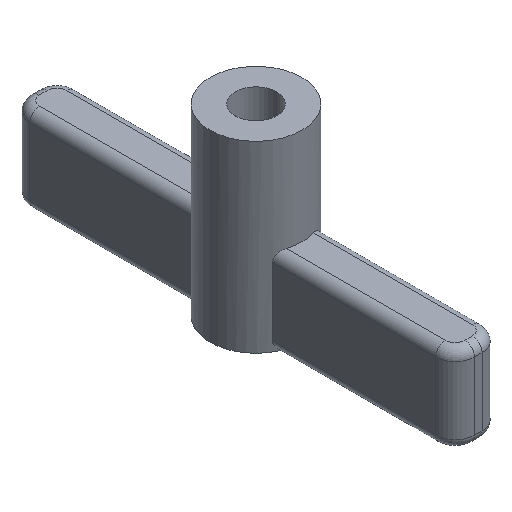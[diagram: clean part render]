
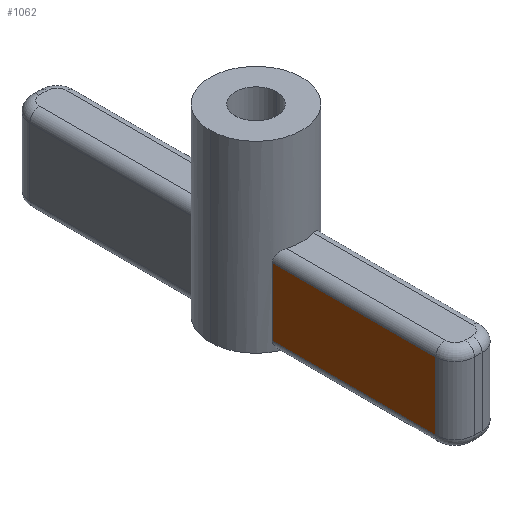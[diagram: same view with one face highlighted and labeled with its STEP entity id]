
A CAD part, isometric view. The second image highlights one B-rep face of the part: STEP entity #1062.
In plain terms, the highlighted planar face has unit normal (-1, 0, 0).
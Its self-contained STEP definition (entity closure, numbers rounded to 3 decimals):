
#9 = ORIENTED_EDGE ( 'NONE', *, *, #1212, .T. ) ;
#70 = VERTEX_POINT ( 'NONE', #946 ) ;
#111 = ORIENTED_EDGE ( 'NONE', *, *, #310, .T. ) ;
#134 = EDGE_CURVE ( 'NONE', #947, #70, #182, .T. ) ;
#141 = LINE ( 'NONE', #458, #188 ) ;
#164 = VECTOR ( 'NONE', #800, 1000. ) ;
#170 = EDGE_CURVE ( 'NONE', #70, #538, #317, .T. ) ;
#176 = CARTESIAN_POINT ( 'NONE',  ( -2.4, -21., 9. ) ) ;
#182 = LINE ( 'NONE', #189, #164 ) ;
#188 = VECTOR ( 'NONE', #1060, 1000. ) ;
#189 = CARTESIAN_POINT ( 'NONE',  ( -2.4, -4.099, 9. ) ) ;
#254 = CARTESIAN_POINT ( 'NONE',  ( -2.4, -4.099, 9. ) ) ;
#300 = DIRECTION ( 'NONE',  ( 0., -1., 0. ) ) ;
#310 = EDGE_CURVE ( 'NONE', #391, #947, #141, .T. ) ;
#317 = LINE ( 'NONE', #321, #1061 ) ;
#320 = DIRECTION ( 'NONE',  ( 0., 0., 1. ) ) ;
#321 = CARTESIAN_POINT ( 'NONE',  ( -2.4, -21., 1. ) ) ;
#391 = VERTEX_POINT ( 'NONE', #614 ) ;
#392 = PLANE ( 'NONE',  #922 ) ;
#450 = DIRECTION ( 'NONE',  ( -1., 0., 0. ) ) ;
#458 = CARTESIAN_POINT ( 'NONE',  ( -2.4, -4.099, 8. ) ) ;
#538 = VERTEX_POINT ( 'NONE', #662 ) ;
#614 = CARTESIAN_POINT ( 'NONE',  ( -2.4, -21., 8. ) ) ;
#662 = CARTESIAN_POINT ( 'NONE',  ( -2.4, -21., 1. ) ) ;
#705 = CARTESIAN_POINT ( 'NONE',  ( -2.4, -4.099, 8. ) ) ;
#800 = DIRECTION ( 'NONE',  ( 0., 0., -1. ) ) ;
#835 = DIRECTION ( 'NONE',  ( 0., -1., 0. ) ) ;
#896 = EDGE_LOOP ( 'NONE', ( #917, #1165, #9, #111 ) ) ;
#917 = ORIENTED_EDGE ( 'NONE', *, *, #134, .T. ) ;
#922 = AXIS2_PLACEMENT_3D ( 'NONE', #254, #450, #835 ) ;
#946 = CARTESIAN_POINT ( 'NONE',  ( -2.4, -4.099, 1. ) ) ;
#947 = VERTEX_POINT ( 'NONE', #705 ) ;
#1010 = VECTOR ( 'NONE', #320, 1000. ) ;
#1060 = DIRECTION ( 'NONE',  ( 0., 1., 0. ) ) ;
#1061 = VECTOR ( 'NONE', #300, 1000. ) ;
#1062 = ADVANCED_FACE ( 'NONE', ( #1197 ), #392, .T. ) ;
#1117 = LINE ( 'NONE', #176, #1010 ) ;
#1165 = ORIENTED_EDGE ( 'NONE', *, *, #170, .T. ) ;
#1197 = FACE_OUTER_BOUND ( 'NONE', #896, .T. ) ;
#1212 = EDGE_CURVE ( 'NONE', #538, #391, #1117, .T. ) ;
